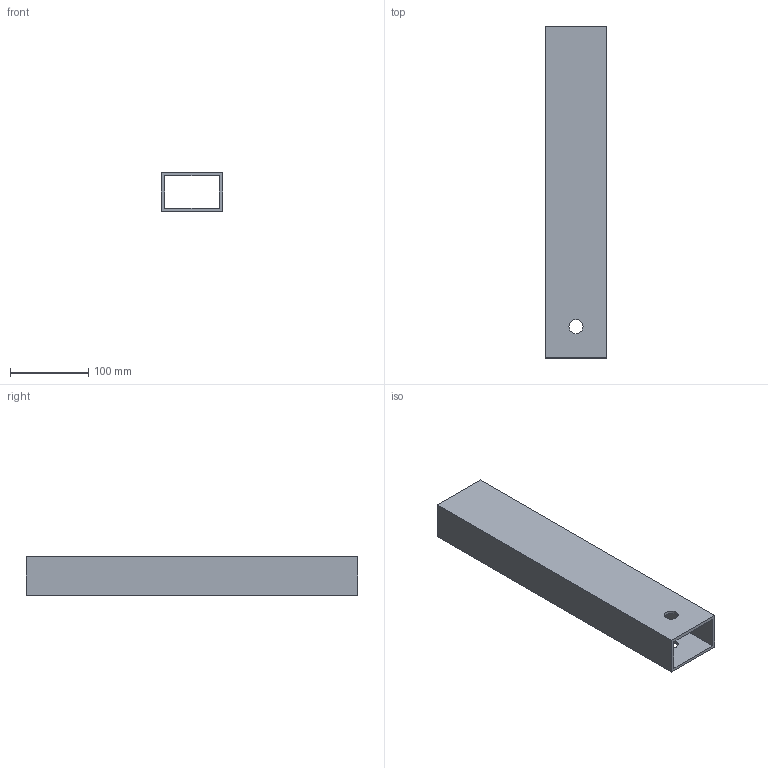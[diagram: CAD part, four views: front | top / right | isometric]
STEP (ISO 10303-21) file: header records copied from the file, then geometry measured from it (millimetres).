
FILE_DESCRIPTION(('golf model'),'2;1');
FILE_NAME('golf','',(''),(''),'golf_step_io','golf','');
FILE_SCHEMA(('AUTOMOTIVE_DESIGN { 1 0 10303 214 1 1 1 1 }'));
Length unit declared in the file: millimetre
Products named in the file (2): ASSEMBLY; floor_frame.outrigger_3
Assembly tree (1 placements, depth 2):
  ASSEMBLY
    floor_frame.outrigger_3
Bounding box: 78 x 423.04 x 49.5 mm (x, y, z)
Volume: 402387.8 mm3; surface area: 203558.3 mm2
Topology: 1 solids, 1 shells, 12 faces, 30 edges, 20 vertices
Faces by surface type: plane 10, cylinder 2
Full cylindrical faces by diameter (mm): 18 x2
Entity records: 394 total; most frequent: CARTESIAN_POINT 62, DIRECTION 60, ORIENTED_EDGE 56, EDGE_CURVE 28, VECTOR 24, LINE 24, VERTEX_POINT 20, EDGE_LOOP 20
